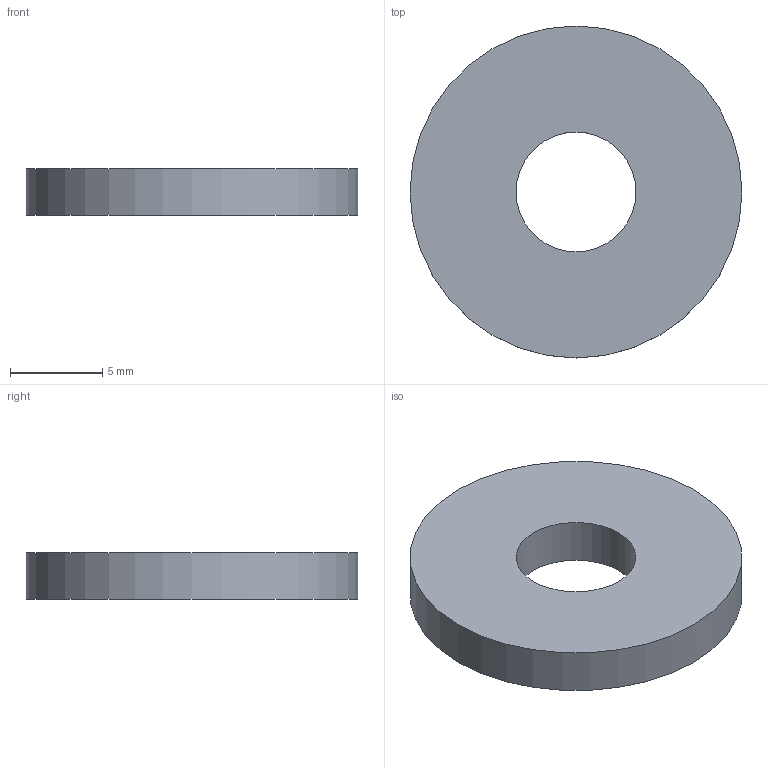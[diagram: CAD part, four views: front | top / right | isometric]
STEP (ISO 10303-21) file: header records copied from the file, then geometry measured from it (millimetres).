
FILE_DESCRIPTION( ( 'Unknown' ), '1' );
FILE_NAME( 'F:/navkite transat/construction/2016/3D ET ASSEMBLAGES/desal/DES 23.stp', 'Unknown', ( 'GMA' ), ( 'Unknown' ), 'XStep 1.0', 'Unknown', ' ' );
FILE_SCHEMA( ( 'automotive_design' ) );
Length unit declared in the file: millimetre
Products named in the file (1): 1
Bounding box: 18 x 18 x 2.5 mm (x, y, z)
Volume: 553.2 mm3; surface area: 635 mm2
Topology: 1 solids, 1 shells, 4 faces, 6 edges, 4 vertices
Faces by surface type: cylinder 2, plane 2
Full cylindrical faces by diameter (mm): 6.5 x1, 18 x1
Entity records: 136 total; most frequent: DIRECTION 18, CARTESIAN_POINT 13, AXIS2_PLACEMENT_3D 9, EDGE_LOOP 8, ORIENTED_EDGE 8, FACE_OUTER_BOUND 6, STYLED_ITEM 4, PRESENTATION_STYLE_ASSIGNMENT 4
